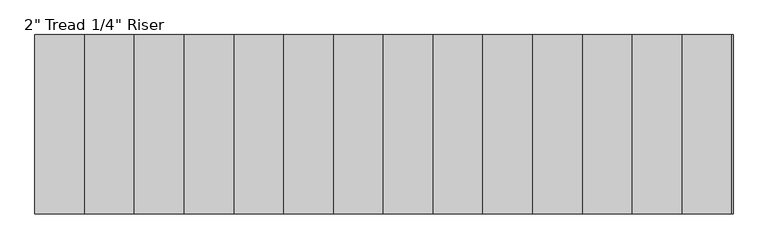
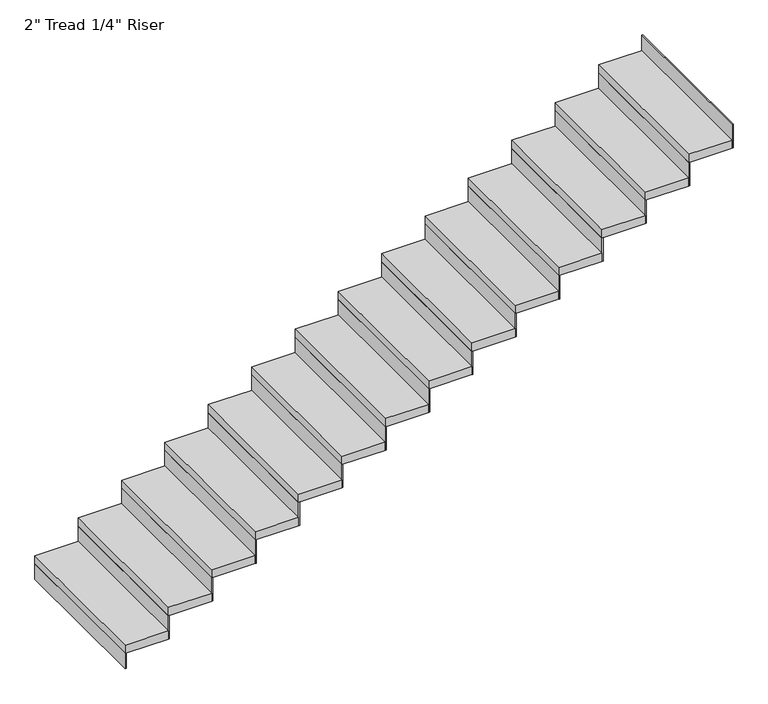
"""IFC4 building model written with IfcOpenShell, lengths in millimetres: stair flight geometry."""

from ifc_helpers import new_model, si_unit, frame, origin, origin_with_axes, place, context, project, spatial, polyline, outline, extrude, source, transform, mapped, element, save


def stair_flight_46b084b7(model_context):
    return source(origin(), model_context, "Body", "SweptSolid", [
        extrude(outline(polyline([(133406.5974271, 15846.0395941), (133400.2474271, 15846.0395941), (133400.2474271, 16760.4395941), (133406.5974271, 16760.4395941), (133406.5974271, 15846.0395941)])), origin_with_axes(), (0.0, 0.0, 1.0), 94.3428571),
        extrude(outline(polyline([(133654.2474271, 16760.4395941), (133654.2474271, 15846.0395941), (133400.2474271, 15846.0395941), (133400.2474271, 16760.4395941), (133654.2474271, 16760.4395941)])), frame((0.0, 0.0, 94.3428571), z_axis=(0.0, 0.0, 1.0), x_axis=(1.0, 0.0, 0.0)), (0.0, 0.0, 1.0), 50.8),
        extrude(outline(polyline([(133660.5974271, 15846.0395941), (133654.2474271, 15846.0395941), (133654.2474271, 16760.4395941), (133660.5974271, 16760.4395941), (133660.5974271, 15846.0395941)])), frame((0.0, 0.0, 94.3428571), z_axis=(0.0, 0.0, 1.0), x_axis=(1.0, 0.0, 0.0)), (0.0, 0.0, 1.0), 145.1428571),
        extrude(outline(polyline([(133908.2474271, 16760.4395941), (133908.2474271, 15846.0395941), (133654.2474271, 15846.0395941), (133654.2474271, 16760.4395941), (133908.2474271, 16760.4395941)])), frame((0.0, 0.0, 239.4857143), z_axis=(0.0, 0.0, 1.0), x_axis=(1.0, 0.0, 0.0)), (0.0, 0.0, 1.0), 50.8),
        extrude(outline(polyline([(133914.5974271, 15846.0395941), (133908.2474271, 15846.0395941), (133908.2474271, 16760.4395941), (133914.5974271, 16760.4395941), (133914.5974271, 15846.0395941)])), frame((0.0, 0.0, 239.4857143), z_axis=(0.0, 0.0, 1.0), x_axis=(1.0, 0.0, 0.0)), (0.0, 0.0, 1.0), 145.1428571),
        extrude(outline(polyline([(134162.2474271, 16760.4395941), (134162.2474271, 15846.0395941), (133908.2474271, 15846.0395941), (133908.2474271, 16760.4395941), (134162.2474271, 16760.4395941)])), frame((0.0, 0.0, 384.6285714), z_axis=(0.0, 0.0, 1.0), x_axis=(1.0, 0.0, 0.0)), (0.0, 0.0, 1.0), 50.8),
        extrude(outline(polyline([(134168.5974271, 15846.0395941), (134162.2474271, 15846.0395941), (134162.2474271, 16760.4395941), (134168.5974271, 16760.4395941), (134168.5974271, 15846.0395941)])), frame((0.0, 0.0, 384.6285714), z_axis=(0.0, 0.0, 1.0), x_axis=(1.0, 0.0, 0.0)), (0.0, 0.0, 1.0), 145.1428571),
        extrude(outline(polyline([(134416.2474271, 16760.4395941), (134416.2474271, 15846.0395941), (134162.2474271, 15846.0395941), (134162.2474271, 16760.4395941), (134416.2474271, 16760.4395941)])), frame((0.0, 0.0, 529.7714286), z_axis=(0.0, 0.0, 1.0), x_axis=(1.0, 0.0, 0.0)), (0.0, 0.0, 1.0), 50.8),
        extrude(outline(polyline([(134422.5974271, 15846.0395941), (134416.2474271, 15846.0395941), (134416.2474271, 16760.4395941), (134422.5974271, 16760.4395941), (134422.5974271, 15846.0395941)])), frame((0.0, 0.0, 529.7714286), z_axis=(0.0, 0.0, 1.0), x_axis=(1.0, 0.0, 0.0)), (0.0, 0.0, 1.0), 145.1428571),
        extrude(outline(polyline([(134670.2474271, 16760.4395941), (134670.2474271, 15846.0395941), (134416.2474271, 15846.0395941), (134416.2474271, 16760.4395941), (134670.2474271, 16760.4395941)])), frame((0.0, 0.0, 674.9142857), z_axis=(0.0, 0.0, 1.0), x_axis=(1.0, 0.0, 0.0)), (0.0, 0.0, 1.0), 50.8),
        extrude(outline(polyline([(134676.5974271, 15846.0395941), (134670.2474271, 15846.0395941), (134670.2474271, 16760.4395941), (134676.5974271, 16760.4395941), (134676.5974271, 15846.0395941)])), frame((0.0, 0.0, 674.9142857), z_axis=(0.0, 0.0, 1.0), x_axis=(1.0, 0.0, 0.0)), (0.0, 0.0, 1.0), 145.1428571),
        extrude(outline(polyline([(134924.2474271, 16760.4395941), (134924.2474271, 15846.0395941), (134670.2474271, 15846.0395941), (134670.2474271, 16760.4395941), (134924.2474271, 16760.4395941)])), frame((0.0, 0.0, 820.0571429), z_axis=(0.0, 0.0, 1.0), x_axis=(1.0, 0.0, 0.0)), (0.0, 0.0, 1.0), 50.8),
        extrude(outline(polyline([(134930.5974271, 15846.0395941), (134924.2474271, 15846.0395941), (134924.2474271, 16760.4395941), (134930.5974271, 16760.4395941), (134930.5974271, 15846.0395941)])), frame((0.0, 0.0, 820.0571429), z_axis=(0.0, 0.0, 1.0), x_axis=(1.0, 0.0, 0.0)), (0.0, 0.0, 1.0), 145.1428571),
        extrude(outline(polyline([(135178.2474271, 16760.4395941), (135178.2474271, 15846.0395941), (134924.2474271, 15846.0395941), (134924.2474271, 16760.4395941), (135178.2474271, 16760.4395941)])), frame((0.0, 0.0, 965.2), z_axis=(0.0, 0.0, 1.0), x_axis=(1.0, 0.0, 0.0)), (0.0, 0.0, 1.0), 50.8),
        extrude(outline(polyline([(135184.5974271, 15846.0395941), (135178.2474271, 15846.0395941), (135178.2474271, 16760.4395941), (135184.5974271, 16760.4395941), (135184.5974271, 15846.0395941)])), frame((0.0, 0.0, 965.2), z_axis=(0.0, 0.0, 1.0), x_axis=(1.0, 0.0, 0.0)), (0.0, 0.0, 1.0), 145.1428571),
        extrude(outline(polyline([(135432.2474271, 16760.4395941), (135432.2474271, 15846.0395941), (135178.2474271, 15846.0395941), (135178.2474271, 16760.4395941), (135432.2474271, 16760.4395941)])), frame((0.0, 0.0, 1110.3428571), z_axis=(0.0, 0.0, 1.0), x_axis=(1.0, 0.0, 0.0)), (0.0, 0.0, 1.0), 50.8),
        extrude(outline(polyline([(135438.5974271, 15846.0395941), (135432.2474271, 15846.0395941), (135432.2474271, 16760.4395941), (135438.5974271, 16760.4395941), (135438.5974271, 15846.0395941)])), frame((0.0, 0.0, 1110.3428571), z_axis=(0.0, 0.0, 1.0), x_axis=(1.0, 0.0, 0.0)), (0.0, 0.0, 1.0), 145.1428571),
        extrude(outline(polyline([(135686.2474271, 16760.4395941), (135686.2474271, 15846.0395941), (135432.2474271, 15846.0395941), (135432.2474271, 16760.4395941), (135686.2474271, 16760.4395941)])), frame((0.0, 0.0, 1255.4857143), z_axis=(0.0, 0.0, 1.0), x_axis=(1.0, 0.0, 0.0)), (0.0, 0.0, 1.0), 50.8),
        extrude(outline(polyline([(135692.5974271, 15846.0395941), (135686.2474271, 15846.0395941), (135686.2474271, 16760.4395941), (135692.5974271, 16760.4395941), (135692.5974271, 15846.0395941)])), frame((0.0, 0.0, 1255.4857143), z_axis=(0.0, 0.0, 1.0), x_axis=(1.0, 0.0, 0.0)), (0.0, 0.0, 1.0), 145.1428571),
        extrude(outline(polyline([(135940.2474271, 16760.4395941), (135940.2474271, 15846.0395941), (135686.2474271, 15846.0395941), (135686.2474271, 16760.4395941), (135940.2474271, 16760.4395941)])), frame((0.0, 0.0, 1400.6285714), z_axis=(0.0, 0.0, 1.0), x_axis=(1.0, 0.0, 0.0)), (0.0, 0.0, 1.0), 50.8),
        extrude(outline(polyline([(135946.5974271, 15846.0395941), (135940.2474271, 15846.0395941), (135940.2474271, 16760.4395941), (135946.5974271, 16760.4395941), (135946.5974271, 15846.0395941)])), frame((0.0, 0.0, 1400.6285714), z_axis=(0.0, 0.0, 1.0), x_axis=(1.0, 0.0, 0.0)), (0.0, 0.0, 1.0), 145.1428571),
        extrude(outline(polyline([(136194.2474271, 16760.4395941), (136194.2474271, 15846.0395941), (135940.2474271, 15846.0395941), (135940.2474271, 16760.4395941), (136194.2474271, 16760.4395941)])), frame((0.0, 0.0, 1545.7714286), z_axis=(0.0, 0.0, 1.0), x_axis=(1.0, 0.0, 0.0)), (0.0, 0.0, 1.0), 50.8),
        extrude(outline(polyline([(136200.5974271, 15846.0395941), (136194.2474271, 15846.0395941), (136194.2474271, 16760.4395941), (136200.5974271, 16760.4395941), (136200.5974271, 15846.0395941)])), frame((0.0, 0.0, 1545.7714286), z_axis=(0.0, 0.0, 1.0), x_axis=(1.0, 0.0, 0.0)), (0.0, 0.0, 1.0), 145.1428571),
        extrude(outline(polyline([(136448.2474271, 16760.4395941), (136448.2474271, 15846.0395941), (136194.2474271, 15846.0395941), (136194.2474271, 16760.4395941), (136448.2474271, 16760.4395941)])), frame((0.0, 0.0, 1690.9142857), z_axis=(0.0, 0.0, 1.0), x_axis=(1.0, 0.0, 0.0)), (0.0, 0.0, 1.0), 50.8),
        extrude(outline(polyline([(136454.5974271, 15846.0395941), (136448.2474271, 15846.0395941), (136448.2474271, 16760.4395941), (136454.5974271, 16760.4395941), (136454.5974271, 15846.0395941)])), frame((0.0, 0.0, 1690.9142857), z_axis=(0.0, 0.0, 1.0), x_axis=(1.0, 0.0, 0.0)), (0.0, 0.0, 1.0), 145.1428571),
        extrude(outline(polyline([(136702.2474271, 16760.4395941), (136702.2474271, 15846.0395941), (136448.2474271, 15846.0395941), (136448.2474271, 16760.4395941), (136702.2474271, 16760.4395941)])), frame((0.0, 0.0, 1836.0571429), z_axis=(0.0, 0.0, 1.0), x_axis=(1.0, 0.0, 0.0)), (0.0, 0.0, 1.0), 50.8),
        extrude(outline(polyline([(136708.5974271, 15846.0395941), (136702.2474271, 15846.0395941), (136702.2474271, 16760.4395941), (136708.5974271, 16760.4395941), (136708.5974271, 15846.0395941)])), frame((0.0, 0.0, 1836.0571429), z_axis=(0.0, 0.0, 1.0), x_axis=(1.0, 0.0, 0.0)), (0.0, 0.0, 1.0), 145.1428571),
        extrude(outline(polyline([(136962.5974271, 15846.0395941), (136956.2474271, 15846.0395941), (136956.2474271, 16760.4395941), (136962.5974271, 16760.4395941), (136962.5974271, 15846.0395941)])), frame((0.0, 0.0, 1981.2), z_axis=(0.0, 0.0, 1.0), x_axis=(1.0, 0.0, 0.0)), (0.0, 0.0, 1.0), 145.1428571),
        extrude(outline(polyline([(136956.2474271, 16760.4395941), (136956.2474271, 15846.0395941), (136702.2474271, 15846.0395941), (136702.2474271, 16760.4395941), (136956.2474271, 16760.4395941)])), frame((0.0, 0.0, 1981.2), z_axis=(0.0, 0.0, 1.0), x_axis=(1.0, 0.0, 0.0)), (0.0, 0.0, 1.0), 50.8),
    ])


if __name__ == "__main__":
    model = new_model("IFC4")
    model_context = context("Model", 3, world=origin())
    ifc_project = project(units=[si_unit("LENGTHUNIT", "METRE", prefix="MILLI")], contexts=[model_context])
    site = spatial("IfcSite", under=ifc_project)
    building = spatial("IfcBuilding", under=site)
    placement = place(None, origin())
    stair_flight_shape = stair_flight_46b084b7(model_context)
    element("IfcStairFlight", 1, ObjectType="2\" Tread 1/4\" Riser", at=placement, inside=building, context=model_context, shape_type="MappedRepresentation", body=[
        mapped(stair_flight_shape, transform((0.0, 0.0, 0.0), x_axis=(1.0, 0.0, 0.0), y_axis=(0.0, 1.0, 0.0), z_axis=(0.0, 0.0, 1.0))),
    ])
    save(model, "model.ifc")
